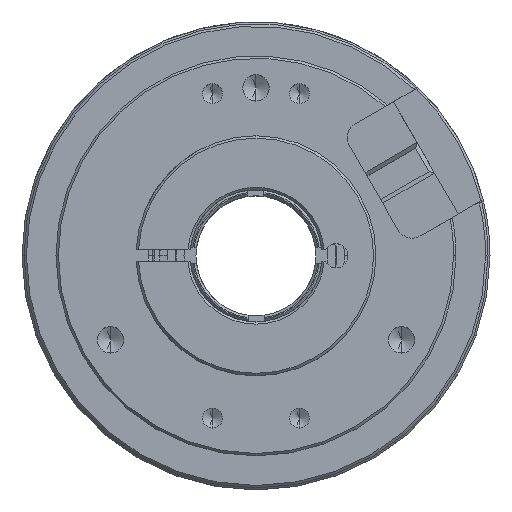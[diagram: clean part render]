
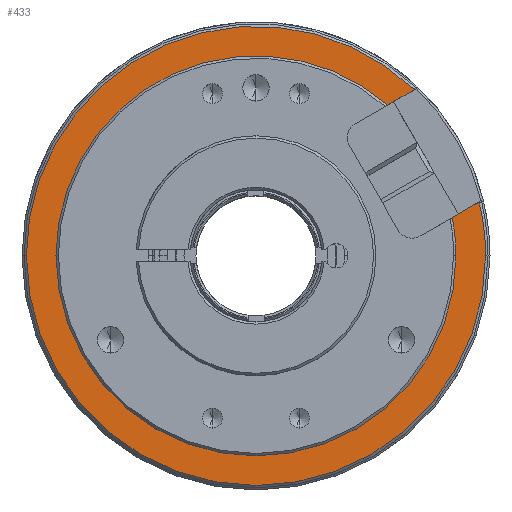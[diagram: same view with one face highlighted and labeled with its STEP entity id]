
A CAD part, top view. The second image highlights one B-rep face of the part: STEP entity #433.
In plain terms, the highlighted planar face has unit normal (0, 0, 1).
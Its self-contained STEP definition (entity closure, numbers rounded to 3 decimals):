
#354 = CIRCLE ( 'NONE', #4617, 25. ) ;
#366 = EDGE_LOOP ( 'NONE', ( #9086, #1094, #10815, #5150, #5837, #14541, #2013, #10687 ) ) ;
#433 = ADVANCED_FACE ( 'NONE', ( #3645 ), #7089, .T. ) ;
#1054 = DIRECTION ( 'NONE',  ( 1., 0., 0. ) ) ;
#1084 = AXIS2_PLACEMENT_3D ( 'NONE', #4871, #5037, #13650 ) ;
#1094 = ORIENTED_EDGE ( 'NONE', *, *, #6596, .T. ) ;
#1095 = CARTESIAN_POINT ( 'NONE',  ( 27.894, 6.752, -1. ) ) ;
#1376 = VERTEX_POINT ( 'NONE', #7269 ) ;
#1765 = CARTESIAN_POINT ( 'NONE',  ( 19.794, 20.781, -1. ) ) ;
#2013 = ORIENTED_EDGE ( 'NONE', *, *, #3531, .F. ) ;
#2045 = AXIS2_PLACEMENT_3D ( 'NONE', #3292, #6843, #5765 ) ;
#3268 = AXIS2_PLACEMENT_3D ( 'NONE', #12442, #14950, #11256 ) ;
#3292 = CARTESIAN_POINT ( 'NONE',  ( 0., 0., -1. ) ) ;
#3342 = VERTEX_POINT ( 'NONE', #12074 ) ;
#3523 = VERTEX_POINT ( 'NONE', #13909 ) ;
#3531 = EDGE_CURVE ( 'NONE', #16011, #1376, #354, .T. ) ;
#3645 = FACE_OUTER_BOUND ( 'NONE', #366, .T. ) ;
#3894 = CARTESIAN_POINT ( 'NONE',  ( 4.05, -7.015, -1. ) ) ;
#3908 = CARTESIAN_POINT ( 'NONE',  ( 0., 0., -1. ) ) ;
#4617 = AXIS2_PLACEMENT_3D ( 'NONE', #3908, #8712, #15193 ) ;
#4642 = CIRCLE ( 'NONE', #5588, 25. ) ;
#4680 = VERTEX_POINT ( 'NONE', #12471 ) ;
#4792 = DIRECTION ( 'NONE',  ( 0., 0., 1. ) ) ;
#4871 = CARTESIAN_POINT ( 'NONE',  ( 0., 0., -1. ) ) ;
#5037 = DIRECTION ( 'NONE',  ( 0., 0., 1. ) ) ;
#5150 = ORIENTED_EDGE ( 'NONE', *, *, #8947, .T. ) ;
#5588 = AXIS2_PLACEMENT_3D ( 'NONE', #13038, #8079, #10679 ) ;
#5765 = DIRECTION ( 'NONE',  ( 1., 0., 0. ) ) ;
#5837 = ORIENTED_EDGE ( 'NONE', *, *, #11945, .F. ) ;
#6244 = CIRCLE ( 'NONE', #2045, 28.7 ) ;
#6249 = DIRECTION ( 'NONE',  ( 0.866, 0.5, 0. ) ) ;
#6596 = EDGE_CURVE ( 'NONE', #12578, #4680, #13353, .T. ) ;
#6843 = DIRECTION ( 'NONE',  ( 0., 0., 1. ) ) ;
#6919 = AXIS2_PLACEMENT_3D ( 'NONE', #13491, #14875, #13652 ) ;
#6995 = CARTESIAN_POINT ( 'NONE',  ( -25., 0., -1. ) ) ;
#7089 = PLANE ( 'NONE',  #12576 ) ;
#7269 = CARTESIAN_POINT ( 'NONE',  ( 25., 0., -1. ) ) ;
#8079 = DIRECTION ( 'NONE',  ( 0., 0., 1. ) ) ;
#8117 = EDGE_CURVE ( 'NONE', #4680, #3523, #15362, .T. ) ;
#8446 = CARTESIAN_POINT ( 'NONE',  ( 0., 0., -1. ) ) ;
#8667 = CARTESIAN_POINT ( 'NONE',  ( 24.533, 4.811, -1. ) ) ;
#8712 = DIRECTION ( 'NONE',  ( 0., 0., 1. ) ) ;
#8751 = CIRCLE ( 'NONE', #1084, 25. ) ;
#8947 = EDGE_CURVE ( 'NONE', #3523, #11880, #6244, .T. ) ;
#9086 = ORIENTED_EDGE ( 'NONE', *, *, #12948, .T. ) ;
#9140 = EDGE_CURVE ( 'NONE', #1376, #15184, #8751, .T. ) ;
#9213 = LINE ( 'NONE', #3894, #10828 ) ;
#10431 = VECTOR ( 'NONE', #15611, 1000. ) ;
#10679 = DIRECTION ( 'NONE',  ( 1., 0., 0. ) ) ;
#10687 = ORIENTED_EDGE ( 'NONE', *, *, #15832, .F. ) ;
#10815 = ORIENTED_EDGE ( 'NONE', *, *, #8117, .T. ) ;
#10828 = VECTOR ( 'NONE', #6249, 1000. ) ;
#11256 = DIRECTION ( 'NONE',  ( 1., 0., 0. ) ) ;
#11730 = CARTESIAN_POINT ( 'NONE',  ( -4.05, 7.015, -1. ) ) ;
#11880 = VERTEX_POINT ( 'NONE', #1095 ) ;
#11945 = EDGE_CURVE ( 'NONE', #15184, #11880, #9213, .T. ) ;
#12074 = CARTESIAN_POINT ( 'NONE',  ( 16.433, 18.841, -1. ) ) ;
#12442 = CARTESIAN_POINT ( 'NONE',  ( 0., 0., -1. ) ) ;
#12471 = CARTESIAN_POINT ( 'NONE',  ( -28.7, 0., -1. ) ) ;
#12576 = AXIS2_PLACEMENT_3D ( 'NONE', #8446, #4792, #1054 ) ;
#12578 = VERTEX_POINT ( 'NONE', #1765 ) ;
#12948 = EDGE_CURVE ( 'NONE', #3342, #12578, #14974, .T. ) ;
#13038 = CARTESIAN_POINT ( 'NONE',  ( 0., 0., -1. ) ) ;
#13353 = CIRCLE ( 'NONE', #6919, 28.7 ) ;
#13491 = CARTESIAN_POINT ( 'NONE',  ( 0., 0., -1. ) ) ;
#13650 = DIRECTION ( 'NONE',  ( 1., 0., 0. ) ) ;
#13652 = DIRECTION ( 'NONE',  ( 1., 0., 0. ) ) ;
#13909 = CARTESIAN_POINT ( 'NONE',  ( 28.7, 0., -1. ) ) ;
#14541 = ORIENTED_EDGE ( 'NONE', *, *, #9140, .F. ) ;
#14875 = DIRECTION ( 'NONE',  ( 0., 0., 1. ) ) ;
#14950 = DIRECTION ( 'NONE',  ( 0., 0., 1. ) ) ;
#14974 = LINE ( 'NONE', #11730, #10431 ) ;
#15184 = VERTEX_POINT ( 'NONE', #8667 ) ;
#15193 = DIRECTION ( 'NONE',  ( 1., 0., 0. ) ) ;
#15362 = CIRCLE ( 'NONE', #3268, 28.7 ) ;
#15611 = DIRECTION ( 'NONE',  ( 0.866, 0.5, 0. ) ) ;
#15832 = EDGE_CURVE ( 'NONE', #3342, #16011, #4642, .T. ) ;
#16011 = VERTEX_POINT ( 'NONE', #6995 ) ;
